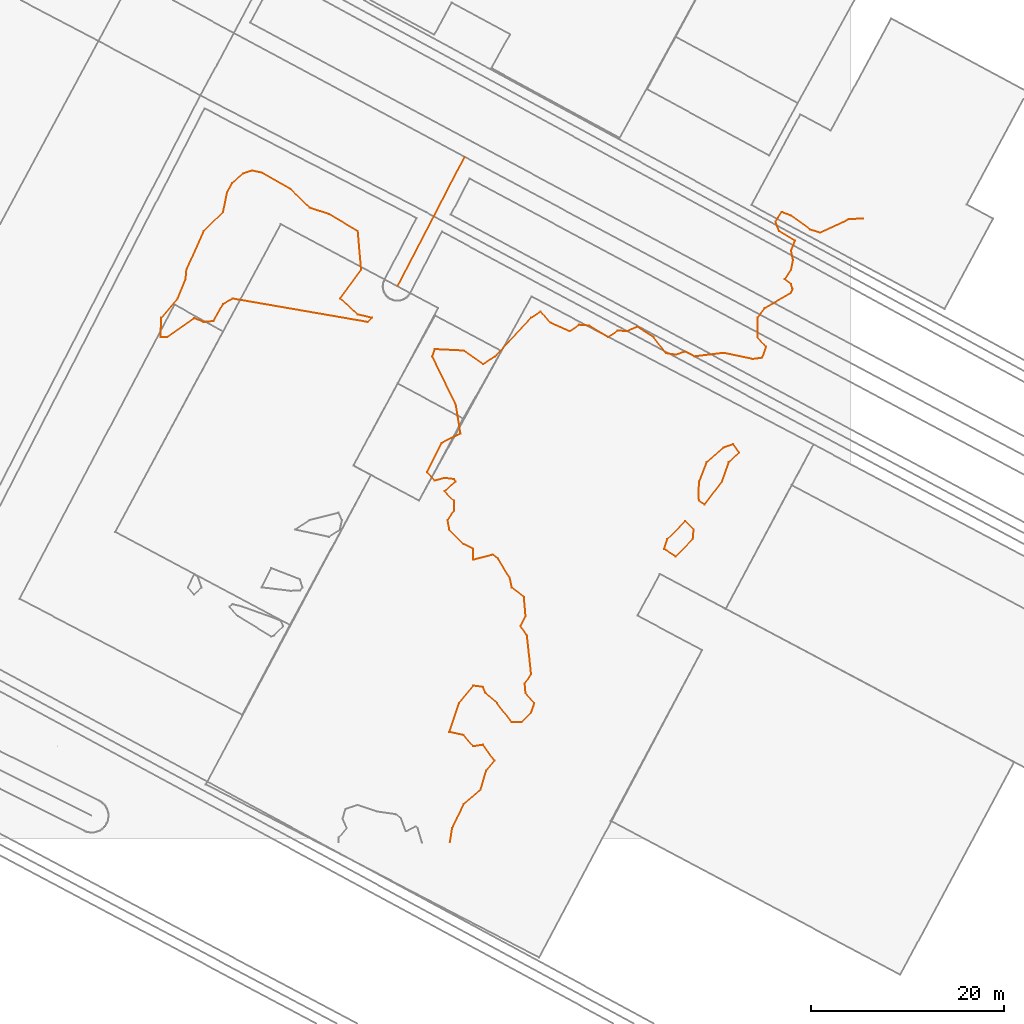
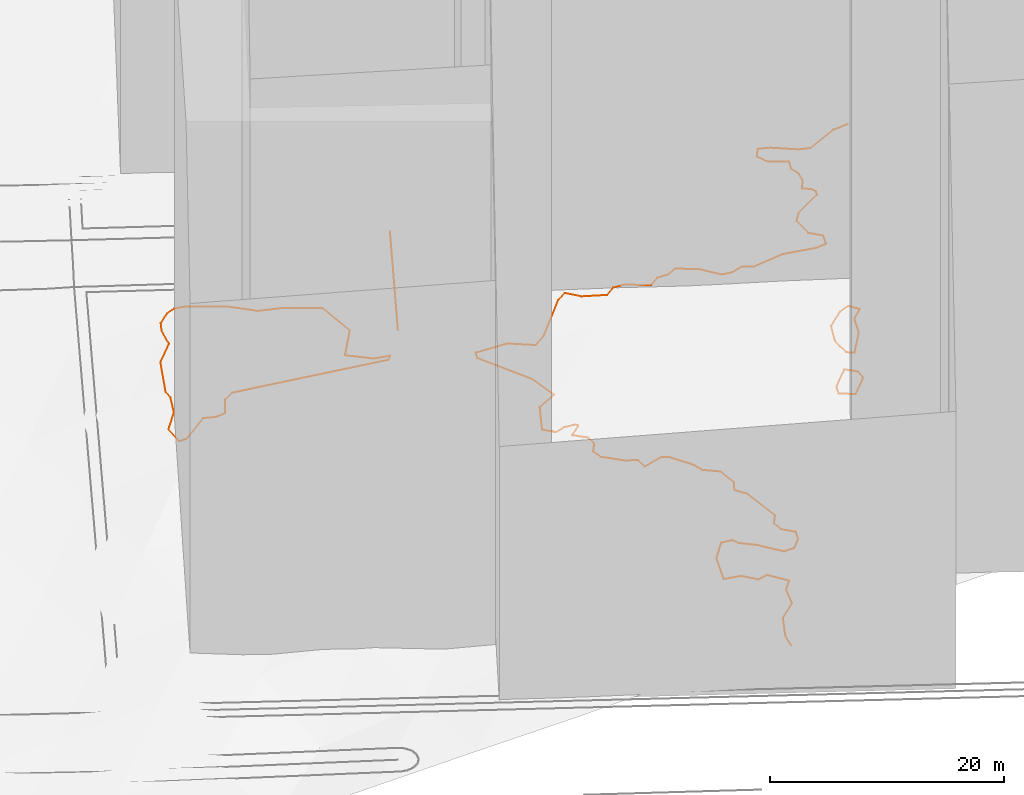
# Not in any storey, part 67 of 80: 4 geographic elements, 1 civil element.
"""IFC4 model written with IfcOpenShell, lengths in metres."""

import ifcopenshell
import ifcopenshell.guid

model = None  # the IFC model being written
_history = None  # IfcOwnerHistory: only IFC2X3 demands one
_inside = {}  # id of a spatial element -> (the spatial element, [elements in it])
_under = {}  # id of a project, library or spatial element -> (it, [spatial elements below it])
_declared = {}  # id of a project -> (the project, [libraries it declares])
_typed = {}  # id of a type object -> (the type object, [elements of that type])
_made_of = {}  # id of a material, layer set ... -> (it, [elements and type objects made of it])


def new_model(schema):
    """Start an empty IFC model of exactly this schema.

    Asked for "IFC4X3", IfcOpenShell would pick the latest addendum, in which some entities
    have other attributes; the version numbers below select the first issue.
    IFC2X3 requires an IfcOwnerHistory on every rooted entity: one is made here for all.
    """
    global model, _history
    if schema == "IFC4X3":
        model = ifcopenshell.file(schema_version=(4, 3, 0, 0))
    else:
        model = ifcopenshell.file(schema=schema)
    _inside.clear()
    _under.clear()
    _declared.clear()
    _typed.clear()
    _made_of.clear()
    _history = None
    if model.schema == "IFC2X3":
        org = make("IfcOrganization", Name="unknown")
        user = make(
            "IfcPersonAndOrganization",
            ThePerson=make("IfcPerson", FamilyName="unknown"),
            TheOrganization=org,
        )
        app = make(
            "IfcApplication",
            ApplicationDeveloper=org,
            Version="unknown",
            ApplicationFullName="unknown",
            ApplicationIdentifier="unknown",
        )
        _history = make(
            "IfcOwnerHistory",
            OwningUser=user,
            OwningApplication=app,
            ChangeAction="ADDED",
            CreationDate=0,
        )
    return model


def make(cls, **values):
    """One entity of the class cls with the attributes given. An attribute that is None is left unset."""
    return model.create_entity(
        cls, **{name: value for name, value in values.items() if value is not None}
    )


def entity(cls, *values):
    """Any entity or typed value of the class cls, its attributes in the order of the schema. None: left unset."""
    e = model.create_entity(cls)
    for i, value in enumerate(values):
        if value is not None:
            e[i] = value
    return e


def rooted(cls, **values):
    """An entity with a GlobalId (a new one), such as an element, a storey or a relation."""
    return make(cls, GlobalId=ifcopenshell.guid.new(), OwnerHistory=_history, **values)


def si_unit(unit_type, name, prefix=None):
    """IfcSIUnit, for example si_unit("LENGTHUNIT", "METRE", prefix="MILLI")."""
    return make("IfcSIUnit", UnitType=unit_type, Prefix=prefix, Name=name)


def assignment(units):
    """IfcUnitAssignment: the units of a project."""
    return None if units is None else make("IfcUnitAssignment", Units=units)


def point(xyz):
    """IfcCartesianPoint."""
    return None if xyz is None else make("IfcCartesianPoint", Coordinates=xyz)


def direction(xyz):
    """IfcDirection."""
    return None if xyz is None else make("IfcDirection", DirectionRatios=xyz)


def frame(location, z_axis=None, x_axis=None):
    """IfcAxis2Placement3D, a coordinate frame: its origin and axes. An axis left out is left unset."""
    return make(
        "IfcAxis2Placement3D",
        Location=point(location),
        Axis=direction(z_axis),
        RefDirection=direction(x_axis),
    )


def origin_with_axes():
    """The frame at (0, 0, 0) with the z axis (0, 0, 1) and the x axis (1, 0, 0) written out."""
    return frame((0.0, 0.0, 0.0), z_axis=(0.0, 0.0, 1.0), x_axis=(1.0, 0.0, 0.0))


def place(relative_to, where):
    """IfcLocalPlacement: puts the frame where relative to a parent placement (None: the world)."""
    return make(
        "IfcLocalPlacement", PlacementRelTo=relative_to, RelativePlacement=where
    )


def context(
    kind, dimensions, precision=None, world=None, true_north=None, identifier=None
):
    """IfcGeometricRepresentationContext, for example the 3D "Model" context."""
    return make(
        "IfcGeometricRepresentationContext",
        ContextIdentifier=identifier,
        ContextType=kind,
        CoordinateSpaceDimension=dimensions,
        Precision=precision,
        WorldCoordinateSystem=world,
        TrueNorth=true_north,
    )


def subcontext(parent, identifier, kind, view, scale=None):
    """IfcGeometricRepresentationSubContext, for example "Body" below "Model"."""
    return make(
        "IfcGeometricRepresentationSubContext",
        ContextIdentifier=identifier,
        ContextType=kind,
        ParentContext=parent,
        TargetScale=scale,
        TargetView=view,
    )


def project(units=None, contexts=None):
    """IfcProject with its units and contexts."""
    return rooted(
        "IfcProject",
        Name="project",
        RepresentationContexts=contexts,
        UnitsInContext=assignment(units),
    )


def spatial(cls, under=None, at=None, **own):
    """A site, building, storey or space (cls), placed at a placement, below another one or the project."""
    s = rooted(cls, ObjectPlacement=at, **own)
    if under is not None:
        _under.setdefault(under.id(), (under, []))[1].append(s)
    return s


def shape(context_of_items, identifier, shape_type, items):
    """IfcShapeRepresentation: the items that make up one representation, for example the "Body"."""
    return make(
        "IfcShapeRepresentation",
        ContextOfItems=context_of_items,
        RepresentationIdentifier=identifier,
        RepresentationType=shape_type,
        Items=items,
    )


def made_of(thing, what):
    """Note that an element or type object is made of a material, layer set ...; save() writes the relation."""
    if what is not None:
        _made_of.setdefault(what.id(), (what, []))[1].append(thing)
    return thing


def element(
    cls,
    number,
    at=None,
    inside=None,
    cuts=None,
    type_object=None,
    material=None,
    context=None,
    identifier="Body",
    shape_type=None,
    held_by="IfcProductDefinitionShape",
    body=None,
    shapes=None,
    **own,
):
    """One element of the class cls, such as IfcWall. Its Tag is "e" and its number.

    at: its placement. inside: the storey or other place that contains it. cuts: it is an
    opening in that element (IfcRelVoidsElement). A single representation is given by context,
    identifier, shape_type and body (its items); several are given by shapes. held_by: the class
    of the entity that holds the representations. save() writes the other relations.
    """
    e = rooted(cls, Tag="e%d" % number, ObjectPlacement=at, **own)
    if body is not None:
        shapes = [shape(context, identifier, shape_type, body)]
    if shapes is not None:
        e.Representation = make(held_by, Representations=shapes)
    if inside is not None:
        _inside.setdefault(inside.id(), (inside, []))[1].append(e)
    if cuts is not None:
        rooted(
            "IfcRelVoidsElement", RelatingBuildingElement=cuts, RelatedOpeningElement=e
        )
    if type_object is not None:
        _typed.setdefault(type_object.id(), (type_object, []))[1].append(e)
    return made_of(e, material)


def aggregate(whole, parts):
    """IfcRelAggregates: a whole, such as a stair, and the parts it consists of."""
    return rooted("IfcRelAggregates", RelatingObject=whole, RelatedObjects=parts)


def save(model, path):
    """Write the relations noted so far, then the file.

    IfcRelAggregates (storeys below a building ...), IfcRelContainedInSpatialStructure (elements
    in a storey), IfcRelDefinesByType, IfcRelAssociatesMaterial and IfcRelDeclares: one each for
    every whole, place, type object, material and project.
    """
    for whole, parts in _under.values():
        aggregate(whole, parts)
    for where, things in _inside.values():
        rooted(
            "IfcRelContainedInSpatialStructure",
            RelatedElements=things,
            RelatingStructure=where,
        )
    for kind, things in _typed.values():
        rooted("IfcRelDefinesByType", RelatedObjects=things, RelatingType=kind)
    for what, things in _made_of.values():
        rooted("IfcRelAssociatesMaterial", RelatedObjects=things, RelatingMaterial=what)
    for by, libraries in _declared.values():
        rooted("IfcRelDeclares", RelatingContext=by, RelatedDefinitions=libraries)
    model.write(path)


model = new_model("IFC4")

# Units and contexts
model_context = context("Model", 3, precision=1e-05, world=origin_with_axes())
body_context = subcontext(model_context, "Body", "Model", "MODEL_VIEW")
ifc_project = project(units=[si_unit("AREAUNIT", "SQUARE_METRE"), si_unit("LENGTHUNIT", "METRE")], contexts=[model_context])

# Sites
site_1_placement = place(None, origin_with_axes())
site_1 = spatial("IfcSite", under=ifc_project, at=site_1_placement, Name="Topoexport Site")
site_2_placement = place(site_1_placement, origin_with_axes())
site_2 = spatial("IfcSite", under=site_1, at=site_2_placement, Name="TPX_ROUTES")

# Civil element
civil_element_placement = place(site_2_placement, frame((325.2928093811, 57.3157186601, 19.7473560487), z_axis=(0.0, 0.0, 1.0), x_axis=(1.0, 0.0, 0.0)))
element("IfcCivilElement", 1, at=civil_element_placement, inside=site_2, Name="Route 46", ObjectType="ROAD", context=body_context, shape_type="GeometricCurveSet", body=[
    entity("IfcGeometricCurveSet", [entity("IfcIndexedPolyCurve", entity("IfcCartesianPointList3D", [[0.0, 0.0, 0.0], [3.7732943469, 7.2604063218, -0.1908729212], [6.9767256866, 13.4372595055, -0.2941373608]]))]),
])

# Site
site_3_placement = place(site_1_placement, origin_with_axes())
site_3 = spatial("IfcSite", under=site_1, at=site_3_placement, Name="TPX_CONTOURS")

# Geographic elements
geographic_element_1_placement = place(site_3_placement, frame((300.692170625, 52.0447113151, 20.0), z_axis=(0.0, 0.0, 1.0), x_axis=(1.0, 0.0, 0.0)))
element("IfcGeographicElement", 2, at=geographic_element_1_placement, inside=site_3, Name="Contour 20.0 m", PredefinedType="NOTDEFINED", context=body_context, shape_type="GeometricCurveSet", body=[
    entity("IfcGeometricCurveSet", [entity("IfcIndexedPolyCurve", entity("IfcCartesianPointList3D", [[0.6990306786, 0.0, 0.0], [0.0, 0.0, 0.0], [0.0876532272, 2.0, 0.0], [1.7850425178, 4.0, 0.0], [2.604670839, 6.0, 0.0], [2.6994351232, 7.0, 0.0], [4.4993901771, 11.0, 0.0], [6.4993321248, 12.9999523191, 0.0], [6.9204634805, 15.0, 0.0], [7.4279453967, 16.0, 0.0], [8.5993149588, 17.0, 0.0], [9.4993321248, 17.3000495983, 0.0], [10.4993321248, 17.0834843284, 0.0], [13.4993321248, 15.3704970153, 0.0], [15.4993321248, 13.4377458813, 0.0], [17.4993321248, 12.769400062, 0.0], [20.4994465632, 11.0, 0.0], [20.8471391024, 7.0, 0.0], [18.6423255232, 4.0, 0.0], [20.4993321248, 2.3571078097, 0.0], [21.960858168, 2.0, 0.0], [21.4993321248, 1.5715842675, 0.0], [7.4993321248, 4.0000408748, 0.0], [6.4993321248, 3.4444032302, 0.0], [5.4993321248, 1.6667761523, 0.0], [4.4993321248, 1.566831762, 0.0], [3.4993321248, 1.9583637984, 0.0], [0.6990306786, 0.0, 0.0]]))]),
])
geographic_element_2_placement = place(site_3_placement, frame((356.5804731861, 36.0447113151, 20.0), z_axis=(0.0, 0.0, 1.0), x_axis=(1.0, 0.0, 0.0)))
element("IfcGeographicElement", 3, at=geographic_element_2_placement, inside=site_3, Name="Contour 20.0 m", PredefinedType="NOTDEFINED", context=body_context, shape_type="GeometricCurveSet", body=[
    entity("IfcGeometricCurveSet", [entity("IfcIndexedPolyCurve", entity("IfcCartesianPointList3D", [[0.6110295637, -1.3998588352, 0.0], [2.4292602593, 1.0, 0.0], [3.1467728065, 3.0, 0.0], [4.2280406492, 4.0, 0.0], [3.6110295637, 4.8788143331, 0.0], [2.6110295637, 4.5348973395, 0.0], [0.8491563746, 3.0, 0.0], [0.0705514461, 1.0, 0.0], [0.0, 0.0, 0.0], [0.0397917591, -1.0, 0.0], [0.6110295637, -1.3998588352, 0.0]]))]),
])
geographic_element_3_placement = place(site_3_placement, frame((352.9972557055, 30.0447113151, 20.0), z_axis=(0.0, 0.0, 1.0), x_axis=(1.0, 0.0, 0.0)))
element("IfcGeographicElement", 4, at=geographic_element_3_placement, inside=site_3, Name="Contour 20.0 m", PredefinedType="NOTDEFINED", context=body_context, shape_type="GeometricCurveSet", body=[
    entity("IfcGeometricCurveSet", [entity("IfcIndexedPolyCurve", entity("IfcCartesianPointList3D", [[1.1942470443, -0.7825326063, 0.0], [2.9859706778, 1.0, 0.0], [3.0693170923, 2.0, 0.0], [2.1942470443, 2.8750283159, 0.0], [0.3372027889, 1.0, 0.0], [0.0, 0.0, 0.0], [1.1942470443, -0.7825326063, 0.0]]))]),
])
geographic_element_4_placement = place(site_3_placement, frame((328.373662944, 38.0447113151, 20.0), z_axis=(0.0, 0.0, 1.0), x_axis=(1.0, 0.0, 0.0)))
element("IfcGeographicElement", 5, at=geographic_element_4_placement, inside=site_3, Name="Contour 20.0 m", PredefinedType="NOTDEFINED", context=body_context, shape_type="GeometricCurveSet", body=[
    entity("IfcGeometricCurveSet", [entity("IfcIndexedPolyCurve", entity("IfcCartesianPointList3D", [[2.3734471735, -38.5, 0.0], [2.6178779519, -37.0, 0.0], [3.8178398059, -34.5002383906, 0.0], [5.5678874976, -33.0, 0.0], [6.1512367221, -31.0, 0.0], [7.0178398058, -30.0, 0.0], [5.8178398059, -28.3332485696, 0.0], [4.8178398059, -28.4996186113, 0.0], [3.8178398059, -27.3331744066, 0.0], [2.3181974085, -27.0, 0.0], [3.3179113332, -24.0, 0.0], [4.8178398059, -22.1999923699, 0.0], [5.8178398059, -22.3331849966, 0.0], [6.103698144, -23.0, 0.0], [7.262423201, -24.0, 0.0], [8.8178398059, -25.9997456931, 0.0], [9.8178398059, -25.9998728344, 0.0], [10.8178080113, -25.0, 0.0], [11.1512790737, -24.0, 0.0], [10.246551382, -23.0, 0.0], [10.151257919, -22.0, 0.0], [10.8177921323, -21.0, 0.0], [10.3893929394, -17.0, 0.0], [9.7180210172, -16.0, 0.0], [10.2464229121, -15.0, 0.0], [10.0679113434, -13.0, 0.0], [8.8181735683, -12.0, 0.0], [8.5957282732, -11.0, 0.0], [7.3893929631, -9.0, 0.0], [6.8178398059, -8.5999313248, 0.0], [4.8178398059, -9.1248032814, 0.0], [4.8177398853, -8.0, 0.0], [3.8178398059, -7.4997139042, 0.0], [2.3181735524, -6.0, 0.0], [2.1512861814, -5.0, 0.0], [2.8178874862, -4.0, 0.0], [2.8179542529, -3.0, 0.0], [1.8182847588, -2.0, 0.0], [2.9845064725, -1.0, 0.0], [2.8178398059, -0.7500238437, 0.0], [1.8178398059, -0.6250089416, 0.0], [0.8178398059, -0.8998359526, 0.0], [0.0, 0.0, 0.0], [1.5021317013, 3.0, 0.0], [3.4841888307, 4.0, 0.0], [2.9998140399, 7.0, 0.0], [0.5452811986, 12.0, 0.0], [0.8178398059, 12.7499522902, 0.0], [3.8178398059, 12.6001144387, 0.0], [5.8178398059, 11.1820183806, 0.0], [7.067768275, 12.0, 0.0], [10.8178398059, 15.9999236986, 0.0], [11.8178398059, 16.6665183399, 0.0], [12.8178398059, 15.5000953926, 0.0], [14.8178398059, 14.6001373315, 0.0], [15.8178398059, 15.2727446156, 0.0], [16.8178398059, 15.2001296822, 0.0], [18.8178398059, 14.0003496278, 0.0], [19.8178398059, 14.6667302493, 0.0], [20.8178398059, 14.6251221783, 0.0], [21.8178398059, 15.0769738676, 0.0], [23.532324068, 14.0, 0.0], [24.8178398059, 12.3336088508, 0.0], [25.8178398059, 12.1667991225, 0.0], [26.8178398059, 12.5000953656, 0.0], [27.8178398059, 12.0002542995, 0.0], [30.8178398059, 12.363726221, 0.0], [33.8178398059, 11.727419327, 0.0], [34.8178398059, 11.8572323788, 0.0], [35.21793136, 13.0, 0.0], [34.3182688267, 14.0, 0.0], [34.3179828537, 16.0, 0.0], [35.0678159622, 17.0, 0.0], [37.8178398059, 18.6001144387, 0.0], [37.9606833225, 19.0, 0.0], [37.8178398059, 19.4999988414, 0.0], [37.1513003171, 20.0, 0.0], [37.8178398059, 21.000099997, 0.0], [38.0178398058, 22.0, 0.0], [37.8179161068, 23.0, 0.0], [38.2178894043, 24.0, 0.0], [36.5681736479, 25.0, 0.0], [36.2025432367, 26.0, 0.0], [36.8174585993, 27.0, 0.0], [37.8178398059, 26.6154907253, 0.0], [39.8178398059, 25.1668785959, 0.0], [40.8178398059, 24.8462904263, 0.0], [43.8178398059, 26.2307556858, 0.0], [45.3178398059, 26.3333545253, 0.0]]))]),
])

save(model, "model.ifc")
